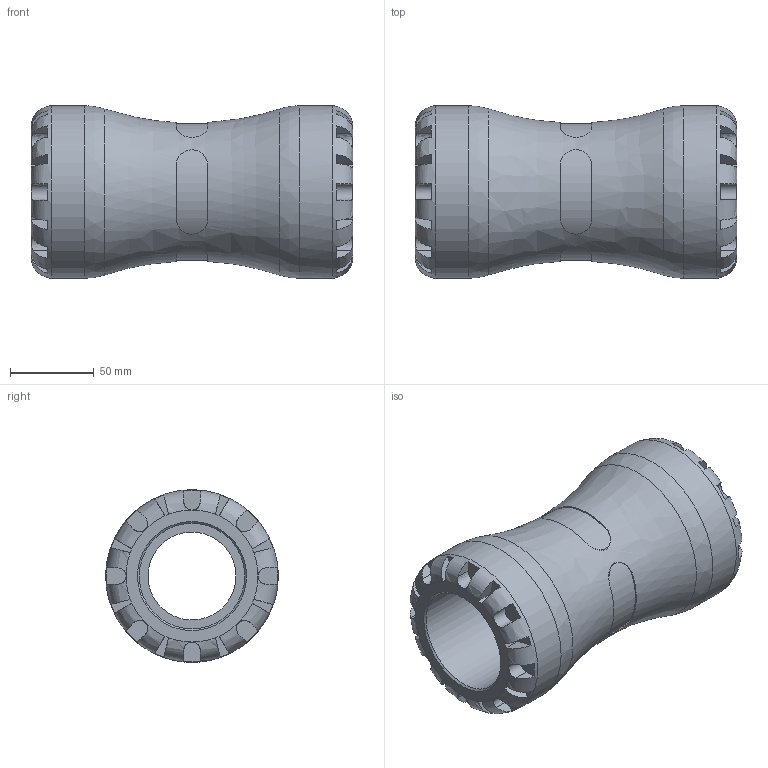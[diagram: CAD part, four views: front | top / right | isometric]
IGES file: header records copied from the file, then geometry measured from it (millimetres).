
Global section: file name: 150100063; native system: Autodesk Inventor 2019; preprocessor: unknown; author: KIM; date: 20231017.191330; units: millimetre
Bounding box: 192 x 103 x 102.95 mm (x, y, z)
Volume: 725793.4 mm3; surface area: 110249.7 mm2
Topology: 1 solids, 1 shells, 164 faces, 431 edges, 274 vertices
Faces by surface type: bspline 164
